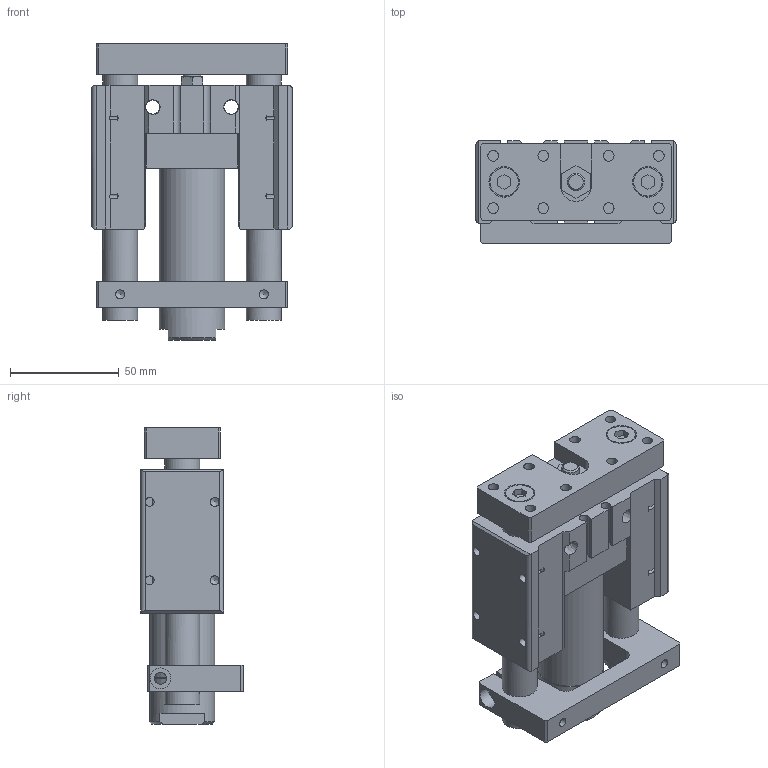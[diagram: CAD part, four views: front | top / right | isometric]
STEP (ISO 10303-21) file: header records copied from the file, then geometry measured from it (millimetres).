
FILE_DESCRIPTION((''),'2;1');
FILE_NAME('I:\3D電子目錄\氣缸\TMB(U)\TMB(U)\TMB(U)25\TMB(U)25x25.stp','2007-10-05T09:08:23',('Administrator'),(''),'Autodesk Inventor 11','Autodesk Inventor 11','');
FILE_SCHEMA(('AUTOMOTIVE_DESIGN { 1 0 10303 214 1 1 1 1 }'));
Length unit declared in the file: millimetre
Products named in the file (1): TMB(U)25
Bounding box: 92 x 47 x 136 mm (x, y, z)
Volume: 295307.8 mm3; surface area: 64679.8 mm2
Topology: 1 solids, 1 shells, 243 faces, 727 edges, 476 vertices
Faces by surface type: plane 149, bspline 49, cylinder 28, cone 17
Full cylindrical faces by diameter (mm): 4.134 x4, 5.5 x1, 8 x2, 9.5 x1, 13 x2, 14 x2, 16 x3, 30 x2
Entity records: 8294 total; most frequent: CARTESIAN_POINT 2323, ORIENTED_EDGE 1234, DIRECTION 1136, EDGE_CURVE 617, VERTEX_POINT 433, VECTOR 408, LINE 408, AXIS2_PLACEMENT_3D 364
